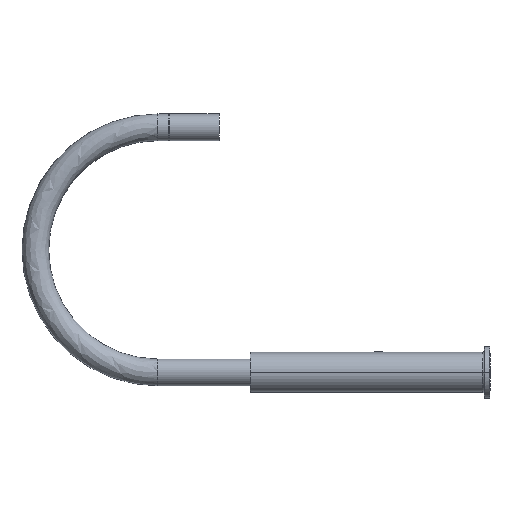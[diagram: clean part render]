
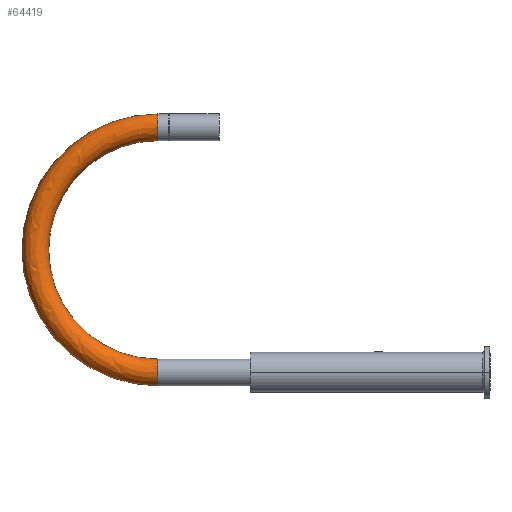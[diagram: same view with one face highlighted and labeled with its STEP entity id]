
A CAD part, left-side view. The second image highlights one B-rep face of the part: STEP entity #64419.
In plain terms, the highlighted face is a revolution surface.
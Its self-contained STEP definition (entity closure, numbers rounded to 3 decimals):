
#64236=CARTESIAN_POINT('',(0.,270.,0.));
#64237=DIRECTION('',(0.,-1.,0.));
#64238=DIRECTION('',(0.,0.,1.));
#64239=AXIS2_PLACEMENT_3D('',#64236,#64237,#64238);
#64241=CARTESIAN_POINT('',(0.,270.,110.));
#64242=DIRECTION('',(-1.,0.,0.));
#64243=DIRECTION('',(0.,0.,1.));
#64244=AXIS2_PLACEMENT_3D('',#64241,#64242,#64243);
#64251=CARTESIAN_POINT('',(0.,270.,110.));
#64252=DIRECTION('',(-1.,0.,0.));
#64253=DIRECTION('',(0.,0.,1.));
#64254=AXIS2_PLACEMENT_3D('',#64251,#64252,#64253);
#64298=CARTESIAN_POINT('',(0.,270.,220.));
#64299=DIRECTION('',(0.,1.,0.));
#64300=DIRECTION('',(0.,0.,-1.));
#64301=AXIS2_PLACEMENT_3D('',#64298,#64299,#64300);
#64322=CARTESIAN_POINT('',(0.,270.,-11.995));
#64323=CARTESIAN_POINT('',(0.,270.,11.995));
#64324=VERTEX_POINT('',#64322);
#64325=VERTEX_POINT('',#64323);
#64326=CARTESIAN_POINT('',(0.,270.,
232.));
#64327=VERTEX_POINT('',#64326);
#64328=CARTESIAN_POINT('',(0.,270.,208.005));
#64329=VERTEX_POINT('',#64328);
#64396=CARTESIAN_POINT('',(0.376,270.,
-11.993));
#64397=CARTESIAN_POINT('',(0.251,270.,
-11.998));
#64398=CARTESIAN_POINT('',(-3.009,270.,
-12.052));
#64399=CARTESIAN_POINT('',(-9.403,270.,
-9.403));
#64400=CARTESIAN_POINT('',(-13.298,270.,
0.));
#64401=CARTESIAN_POINT('',(-9.403,270.,
9.404));
#64402=CARTESIAN_POINT('',(-3.009,270.,
12.052));
#64403=CARTESIAN_POINT('',(0.251,270.,
11.998));
#64404=CARTESIAN_POINT('',(0.376,270.,
11.994));
#64406=CARTESIAN_POINT('',(-3.924,270.,110.));
#64407=DIRECTION('',(-1.,0.,0.));
#64408=AXIS1_PLACEMENT('',#64406,#64407);
#64409=SURFACE_OF_REVOLUTION('',#64405,#64408);
#64410=ORIENTED_EDGE('',*,*,#64381,.T.);
#64412=ORIENTED_EDGE('',*,*,#64411,.F.);
#64414=ORIENTED_EDGE('',*,*,#64413,.F.);
#64416=ORIENTED_EDGE('',*,*,#64415,.T.);
#64417=EDGE_LOOP('',(#64410,#64412,#64414,#64416));
#64418=FACE_OUTER_BOUND('',#64417,.F.);
#64240=CIRCLE('',#64239,11.995);
#64245=CIRCLE('',#64244,98.);
#64255=CIRCLE('',#64254,122.);
#64302=CIRCLE('',#64301,11.995);
#64381=EDGE_CURVE('',#64325,#64324,#64240,.T.);
#64405=B_SPLINE_CURVE_WITH_KNOTS('',3,(#64396,#64397,#64398,#64399,#64400,
#64401,#64402,#64403,#64404),.UNSPECIFIED.,.F.,.F.,(4,1,1,1,1,1,4),(0.,
0.01,0.255,0.5,0.745,
0.99,1.),.UNSPECIFIED.);
#64411=EDGE_CURVE('',#64327,#64324,#64255,.T.);
#64413=EDGE_CURVE('',#64329,#64327,#64302,.T.);
#64415=EDGE_CURVE('',#64329,#64325,#64245,.T.);
#64419=ADVANCED_FACE('',(#64418),#64409,.T.);
